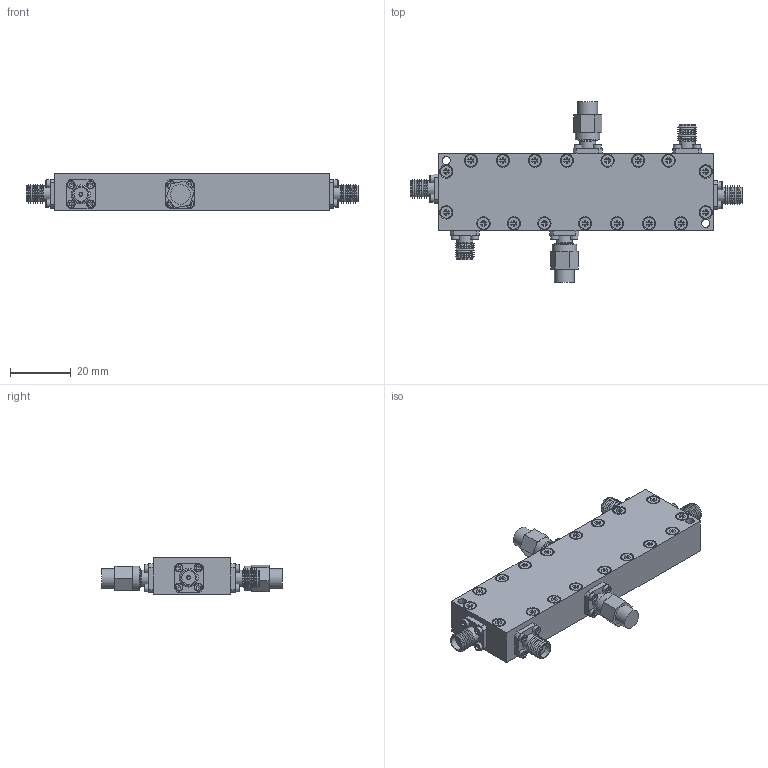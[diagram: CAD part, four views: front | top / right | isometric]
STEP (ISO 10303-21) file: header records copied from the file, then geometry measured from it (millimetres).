
FILE_DESCRIPTION(/* description */ ('Unknown'),/* implementation_level */ '2;1');
FILE_NAME(/* name */ 'DETI_MICROWAVE_HIGH_POWER_DUAL_DIRECTIONAL_COUPLER_800027_STEP',/* time_stamp */ '2021-06-11T15:35:09+02:00',/* author */ ('ALG'),/* organization */ ('DETI'),/* preprocessor_version */ 'ST-DEVELOPER v16.7',/* originating_system */ 'Solid Edge',/* authorisation */ 'Unknown');
FILE_SCHEMA (('AUTOMOTIVE_DESIGN {1 0 10303 214 3 1 1}'));
Length unit declared in the file: millimetre
Products named in the file (1): 800027 0A 1601A2
Bounding box: 109 x 59.4 x 12 mm (x, y, z)
Volume: 29788.8 mm3; surface area: 13031.3 mm2
Topology: 1 solids, 75 shells, 1366 faces, 3376 edges, 2228 vertices
Faces by surface type: plane 918, cylinder 238, cone 168, torus 42
Full cylindrical faces by diameter (mm): 0.8 x2, 1.1 x6, 1.221 x24, 1.27 x10, 1.4 x24, 1.567 x18, 1.8 x24, 2 x18, 2.2 x18, 2.6 x24, 2.7 x2, 3.8 x18, 4.1 x6, 4.6 x4, 5.3 x10, 6.5 x2, 6.8 x2, 8 x2
Entity records: 45908 total; most frequent: CARTESIAN_POINT 6575, DIRECTION 5942, ORIENTED_EDGE 5452, EDGE_CURVE 2726, VERTEX_POINT 2050, FACE_BOUND 2006, AXIS2_PLACEMENT_3D 1993, EDGE_LOOP 1958
